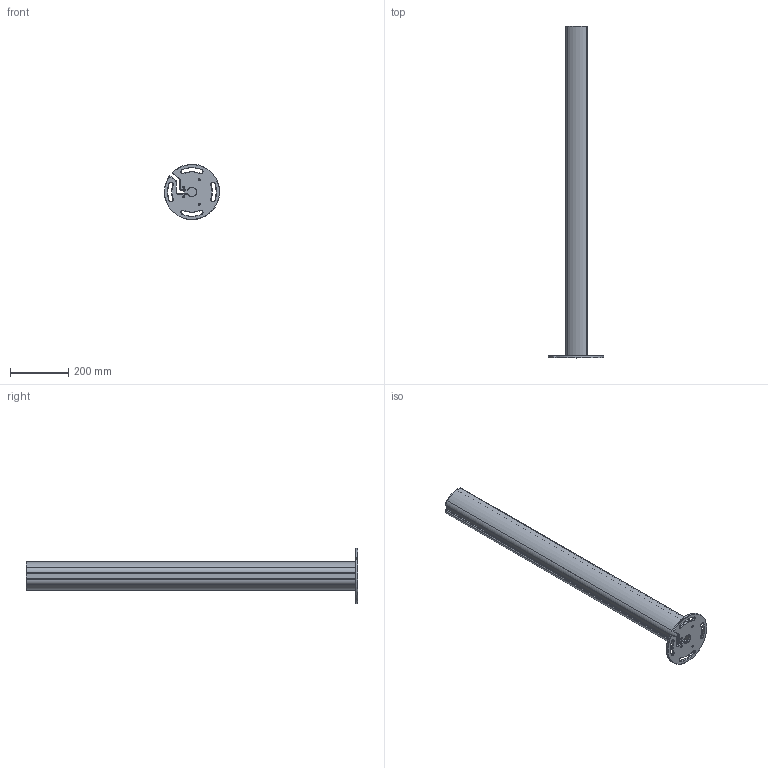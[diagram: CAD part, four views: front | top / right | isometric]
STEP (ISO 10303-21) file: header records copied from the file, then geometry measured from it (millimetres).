
FILE_DESCRIPTION((''),'2;1');
FILE_NAME('ESQC_ASM','2022-07-19T11:56:21',('18822879468'),(''),'CREO PARAMETRIC BY PTC INC, 2019010','CREO PARAMETRIC BY PTC INC, 2019010','');
FILE_SCHEMA(('CONFIG_CONTROL_DESIGN'));
Length unit declared in the file: millimetre
Products named in the file (5): 00; _-0001; _-0002; 000; ESQC_ASM
Assembly tree (4 placements, depth 2):
  ESQC_ASM
    00
    _-0001
    _-0002
    000
Bounding box: 189.81 x 1140 x 189.85 mm (x, y, z)
Volume: 1708152.8 mm3; surface area: 897170.3 mm2
Topology: 4 solids, 4 shells, 239 faces, 613 edges, 378 vertices
Faces by surface type: cylinder 98, plane 73, cone 68
Entity records: 7388 total; most frequent: DIRECTION 1365, CARTESIAN_POINT 1235, ORIENTED_EDGE 1218, EDGE_CURVE 609, AXIS2_PLACEMENT_3D 508, VERTEX_POINT 378, VECTOR 349, LINE 349
